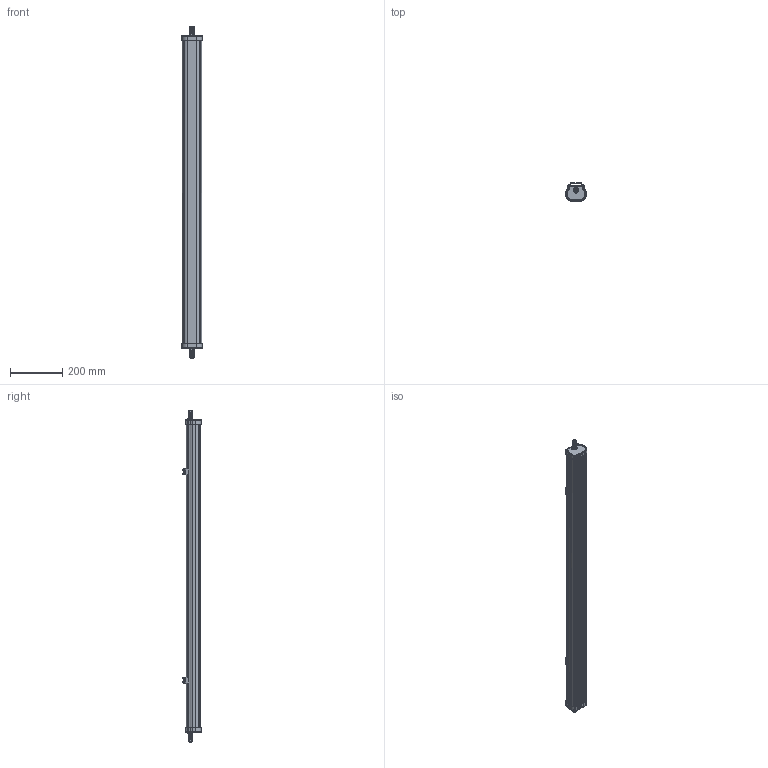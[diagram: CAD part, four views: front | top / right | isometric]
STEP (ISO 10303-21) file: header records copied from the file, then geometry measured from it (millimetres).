
FILE_DESCRIPTION(('Creo Elements/Direct Modeling STEP Export'),'2;1');
FILE_NAME('WP-E-1200-40-xxx.stp','2020-06-18T10:58:29',(''),(''),'PTC Creo Elements/Direct Modeling STEP processor for AP214 (Solid Model)','PTC Creo Elements/Direct Modeling 19.0E 27-Jun-2016 (C) Parametric Technology GmbH','');
FILE_SCHEMA(('AUTOMOTIVE_DESIGN { 1 0 10303 214 1 1 1 1 }'));
Length unit declared in the file: millimetre
Products named in the file (6): Board; holder; casing; cap; cap1; WP-E-1200-40-xxx
Assembly tree (6 placements, depth 2):
  WP-E-1200-40-xxx
    cap1
    cap
    casing
    holder  x2
    Board
Bounding box: 78.2 x 69.3 x 1274.8 mm (x, y, z)
Volume: 414406.3 mm3; surface area: 885876.3 mm2
Topology: 6 solids, 10 shells, 3588 faces, 9564 edges, 6164 vertices
Faces by surface type: plane 2458, cylinder 727, cone 136, torus 124, bspline 107, extrusion 36
Entity records: 137486 total; most frequent: CARTESIAN_POINT 48462, ORIENTED_EDGE 18168, DIRECTION 15552, EDGE_CURVE 9084, VECTOR 6196, LINE 6160, VERTEX_POINT 5884, AXIS2_PLACEMENT_3D 4678
